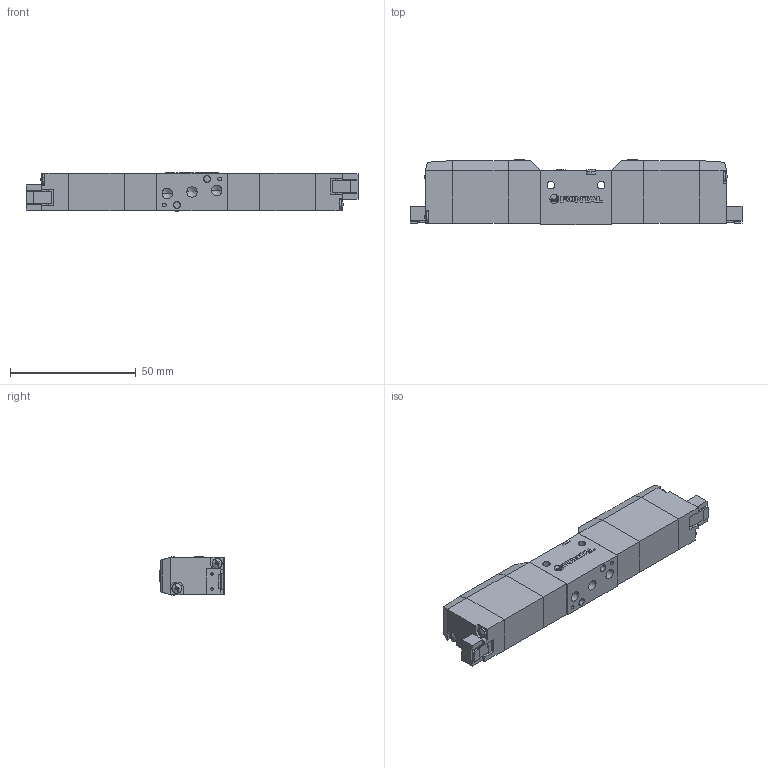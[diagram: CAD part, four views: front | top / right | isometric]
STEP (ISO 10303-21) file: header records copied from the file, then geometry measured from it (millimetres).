
FILE_DESCRIPTION (( 'STEP AP203' ), '1' );
FILE_NAME ('RCD245#-M5-#-SP-#.STEP', '2016-02-04T05:19:53', ( 'Sam Lin' ), ( '' ), 'SwSTEP 2.0', 'SolidWorks 2013', '' );
FILE_SCHEMA (( 'CONFIG_CONTROL_DESIGN' ));
Length unit declared in the file: metre
Products named in the file (10): PC5-8; PC5-10; RCS-1; RCD245#-M5-#-SP-#; PC-MARK; ISO 7045 - M2.5 x 25; PC5-5; PC5-6; PC5-7; ISO 7045 - M2 x 10
Assembly tree (18 placements, depth 2):
  RCD245#-M5-#-SP-#
    RCS-1
    PC-MARK
    ISO 7045 - M2.5 x 25  x2
    PC5-5  x2
    PC5-6  x2
    PC5-7  x2
    ISO 7045 - M2 x 10  x4
    PC5-8  x2
    PC5-10  x2
Bounding box: 132 x 26 x 15.4 mm (x, y, z)
Volume: 41868.9 mm3; surface area: 18543.1 mm2
Topology: 26 solids, 26 shells, 604 faces, 1496 edges, 939 vertices
Faces by surface type: plane 385, cylinder 103, cone 72, bspline 44
Entity records: 11383 total; most frequent: CARTESIAN_POINT 2268, ORIENTED_EDGE 1626, DIRECTION 1589, EDGE_CURVE 813, VECTOR 535, LINE 535, AXIS2_PLACEMENT_3D 527, VERTEX_POINT 526
